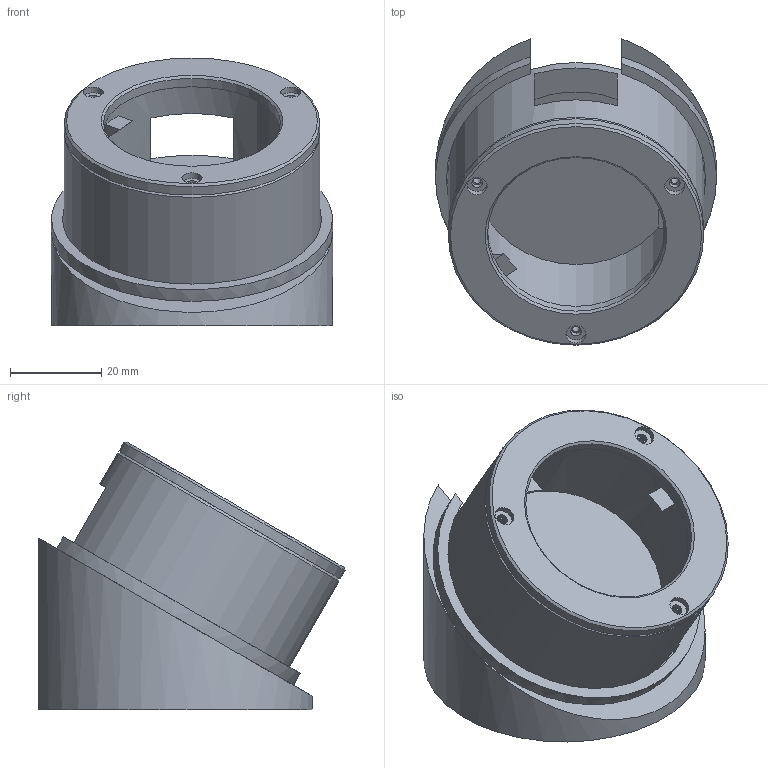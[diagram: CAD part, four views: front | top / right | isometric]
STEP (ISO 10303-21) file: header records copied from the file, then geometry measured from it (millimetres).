
FILE_DESCRIPTION(('Open CASCADE Model'),'2;1');
FILE_NAME('Open CASCADE Shape Model','2026-11-04T16:01:59',('Author'),( 'Open CASCADE'),'Open CASCADE STEP processor 7.9','Open CASCADE 7.9' ,'Unknown');
FILE_SCHEMA(('AUTOMOTIVE_DESIGN { 1 0 10303 214 1 1 1 1 }'));
Length unit declared in the file: millimetre
Products named in the file (4): Dotty; body; stand-30deg; bezel
Assembly tree (3 placements, depth 2):
  Dotty
    body
    stand-30deg
    bezel
Bounding box: 61.6 x 67.08 x 58.69 mm (x, y, z)
Volume: 80248.3 mm3; surface area: 27410.4 mm2
Topology: 3 solids, 3 shells, 56 faces, 117 edges, 76 vertices
Faces by surface type: plane 36, cylinder 16, cone 4
Full cylindrical faces by diameter (mm): 1.7 x3, 2.3 x3, 4.4 x3, 38.8 x1, 44 x1, 56 x2
Entity records: 3164 total; most frequent: CARTESIAN_POINT 671, DIRECTION 467, ORIENTED_EDGE 234, PCURVE 234, DEFINITIONAL_REPRESENTATION 234, LINE 209, VECTOR 209, EDGE_CURVE 117
